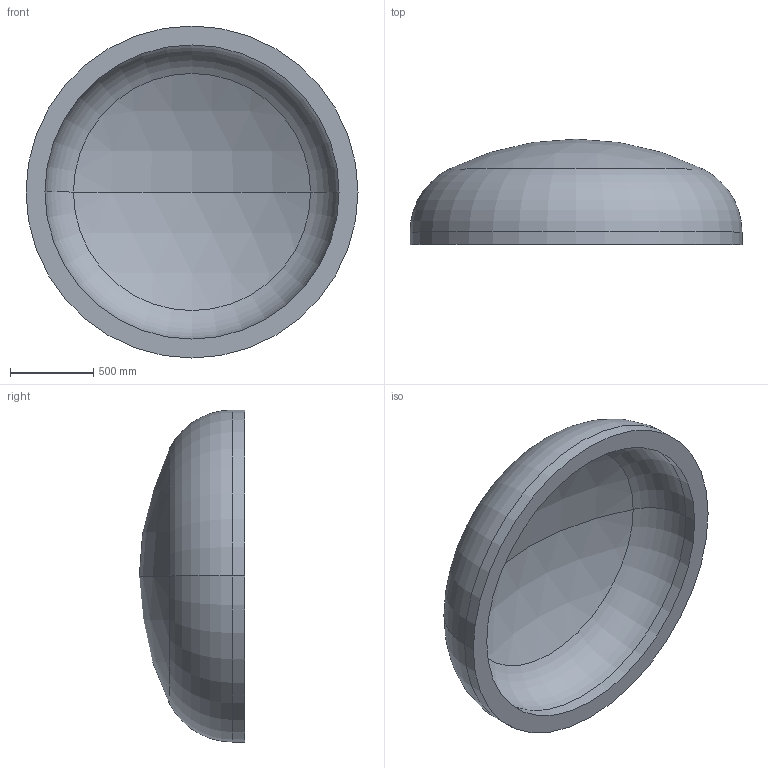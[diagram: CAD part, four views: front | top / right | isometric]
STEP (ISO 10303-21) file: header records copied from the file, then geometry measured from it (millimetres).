
FILE_DESCRIPTION (( 'STEP AP203' ), '1' );
FILE_NAME ('DIN 28013 Korbbogenform_-_Boden DIN 28013 - 2000 x 75 - I - s=114.step', '2016-07-01T14:12:54', ( '' ), ( '' ), 'SwSTEP 2.0', 'SolidWorks 2013', '' );
FILE_SCHEMA (( 'CONFIG_CONTROL_DESIGN' ));
Length unit declared in the file: millimetre
Products named in the file (1): DIN 28013 Korbbogenform_-_Boden DIN 28013 - 2000 x 75 - I - s=114
Bounding box: 2000 x 634.74 x 2000 mm (x, y, z)
Volume: 512454672.4 mm3; surface area: 9693104.2 mm2
Topology: 1 solids, 1 shells, 13 faces, 24 edges, 14 vertices
Faces by surface type: torus 4, cylinder 4, sphere 4, plane 1
Entity records: 407 total; most frequent: DIRECTION 72, CARTESIAN_POINT 52, ORIENTED_EDGE 48, AXIS2_PLACEMENT_3D 34, EDGE_CURVE 24, CIRCLE 20, EDGE_LOOP 14, VERTEX_POINT 14
